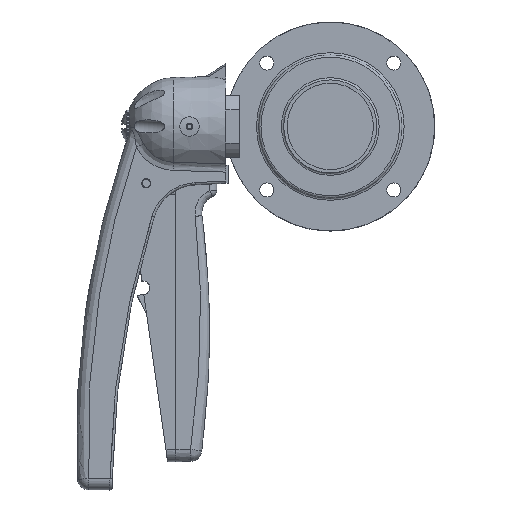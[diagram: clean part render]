
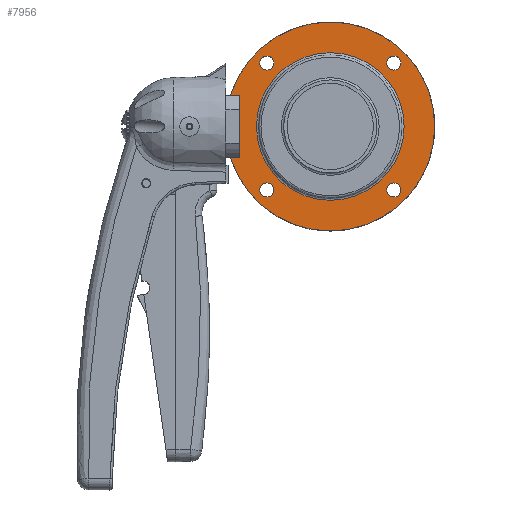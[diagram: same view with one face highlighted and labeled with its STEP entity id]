
A CAD part, top view. The second image highlights one B-rep face of the part: STEP entity #7956.
In plain terms, the highlighted planar face has unit normal (0, 0, 1) as drawn and (1, 0, 0) by its records, which use the part's own axes.
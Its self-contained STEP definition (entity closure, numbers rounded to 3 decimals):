
#2006=FACE_BOUND('',#2890,.T.);
#2007=FACE_BOUND('',#2891,.T.);
#2008=FACE_BOUND('',#2892,.T.);
#2009=FACE_BOUND('',#2893,.T.);
#2010=FACE_BOUND('',#2894,.T.);
#2430=FACE_OUTER_BOUND('',#2889,.T.);
#2889=EDGE_LOOP('',(#7289,#7290));
#2890=EDGE_LOOP('',(#7291));
#2891=EDGE_LOOP('',(#7292));
#2892=EDGE_LOOP('',(#7293));
#2893=EDGE_LOOP('',(#7294));
#2894=EDGE_LOOP('',(#7295,#7296));
#3182=CIRCLE('',#8704,3.1);
#3183=CIRCLE('',#8706,3.1);
#3184=CIRCLE('',#8708,3.1);
#3185=CIRCLE('',#8710,3.1);
#3187=CIRCLE('',#8715,46.);
#3188=CIRCLE('',#8716,46.);
#3189=CIRCLE('',#8718,32.5);
#3190=CIRCLE('',#8719,32.5);
#3916=VERTEX_POINT('',#22664);
#3917=VERTEX_POINT('',#22668);
#3918=VERTEX_POINT('',#22672);
#3919=VERTEX_POINT('',#22676);
#3921=VERTEX_POINT('',#22704);
#3922=VERTEX_POINT('',#22705);
#3923=VERTEX_POINT('',#22710);
#3924=VERTEX_POINT('',#22711);
#5039=EDGE_CURVE('',#3916,#3916,#3182,.T.);
#5041=EDGE_CURVE('',#3917,#3917,#3183,.T.);
#5043=EDGE_CURVE('',#3918,#3918,#3184,.T.);
#5045=EDGE_CURVE('',#3919,#3919,#3185,.T.);
#5049=EDGE_CURVE('',#3921,#3922,#3187,.T.);
#5050=EDGE_CURVE('',#3922,#3921,#3188,.T.);
#5052=EDGE_CURVE('',#3923,#3924,#3189,.T.);
#5053=EDGE_CURVE('',#3924,#3923,#3190,.T.);
#7289=ORIENTED_EDGE('',*,*,#5049,.T.);
#7290=ORIENTED_EDGE('',*,*,#5050,.T.);
#7291=ORIENTED_EDGE('',*,*,#5039,.T.);
#7292=ORIENTED_EDGE('',*,*,#5041,.T.);
#7293=ORIENTED_EDGE('',*,*,#5043,.T.);
#7294=ORIENTED_EDGE('',*,*,#5045,.T.);
#7295=ORIENTED_EDGE('',*,*,#5052,.F.);
#7296=ORIENTED_EDGE('',*,*,#5053,.F.);
#7536=PLANE('',#8717);
#7956=ADVANCED_FACE('',(#2430,#2006,#2007,#2008,#2009,#2010),#7536,.T.);
#8704=AXIS2_PLACEMENT_3D('',#22666,#10577,#10578);
#8706=AXIS2_PLACEMENT_3D('',#22670,#10582,#10583);
#8708=AXIS2_PLACEMENT_3D('',#22674,#10587,#10588);
#8710=AXIS2_PLACEMENT_3D('',#22678,#10592,#10593);
#8715=AXIS2_PLACEMENT_3D('',#22706,#10602,#10603);
#8716=AXIS2_PLACEMENT_3D('',#22707,#10604,#10605);
#8717=AXIS2_PLACEMENT_3D('',#22709,#10607,#10608);
#8718=AXIS2_PLACEMENT_3D('',#22712,#10609,#10610);
#8719=AXIS2_PLACEMENT_3D('',#22713,#10611,#10612);
#10577=DIRECTION('center_axis',(-1.,0.,0.));
#10578=DIRECTION('ref_axis',(0.,0.,1.));
#10582=DIRECTION('center_axis',(-1.,0.,0.));
#10583=DIRECTION('ref_axis',(0.,0.,1.));
#10587=DIRECTION('center_axis',(-1.,0.,0.));
#10588=DIRECTION('ref_axis',(0.,0.,1.));
#10592=DIRECTION('center_axis',(-1.,0.,0.));
#10593=DIRECTION('ref_axis',(0.,0.,1.));
#10602=DIRECTION('center_axis',(1.,0.,0.));
#10603=DIRECTION('ref_axis',(0.,0.,-1.));
#10604=DIRECTION('center_axis',(1.,0.,0.));
#10605=DIRECTION('ref_axis',(0.,0.,-1.));
#10607=DIRECTION('center_axis',(1.,0.,0.));
#10608=DIRECTION('ref_axis',(0.,0.,-1.));
#10609=DIRECTION('center_axis',(1.,0.,0.));
#10610=DIRECTION('ref_axis',(0.,0.,-1.));
#10611=DIRECTION('center_axis',(1.,0.,0.));
#10612=DIRECTION('ref_axis',(0.,0.,-1.));
#22664=CARTESIAN_POINT('',(10.,-27.931,24.831));
#22666=CARTESIAN_POINT('Origin',(10.,-27.931,27.931));
#22668=CARTESIAN_POINT('',(10.,27.931,-31.031));
#22670=CARTESIAN_POINT('Origin',(10.,27.931,-27.931));
#22672=CARTESIAN_POINT('',(10.,-27.931,-31.031));
#22674=CARTESIAN_POINT('Origin',(10.,-27.931,-27.931));
#22676=CARTESIAN_POINT('',(10.,27.931,24.831));
#22678=CARTESIAN_POINT('Origin',(10.,27.931,27.931));
#22704=CARTESIAN_POINT('',(10.,46.,0.));
#22705=CARTESIAN_POINT('',(10.,-46.,0.));
#22706=CARTESIAN_POINT('Origin',(10.,0.,0.));
#22707=CARTESIAN_POINT('Origin',(10.,0.,0.));
#22709=CARTESIAN_POINT('Origin',(10.,32.5,0.));
#22710=CARTESIAN_POINT('',(10.,32.5,0.));
#22711=CARTESIAN_POINT('',(10.,0.,32.5));
#22712=CARTESIAN_POINT('Origin',(10.,0.,0.));
#22713=CARTESIAN_POINT('Origin',(10.,0.,0.));
